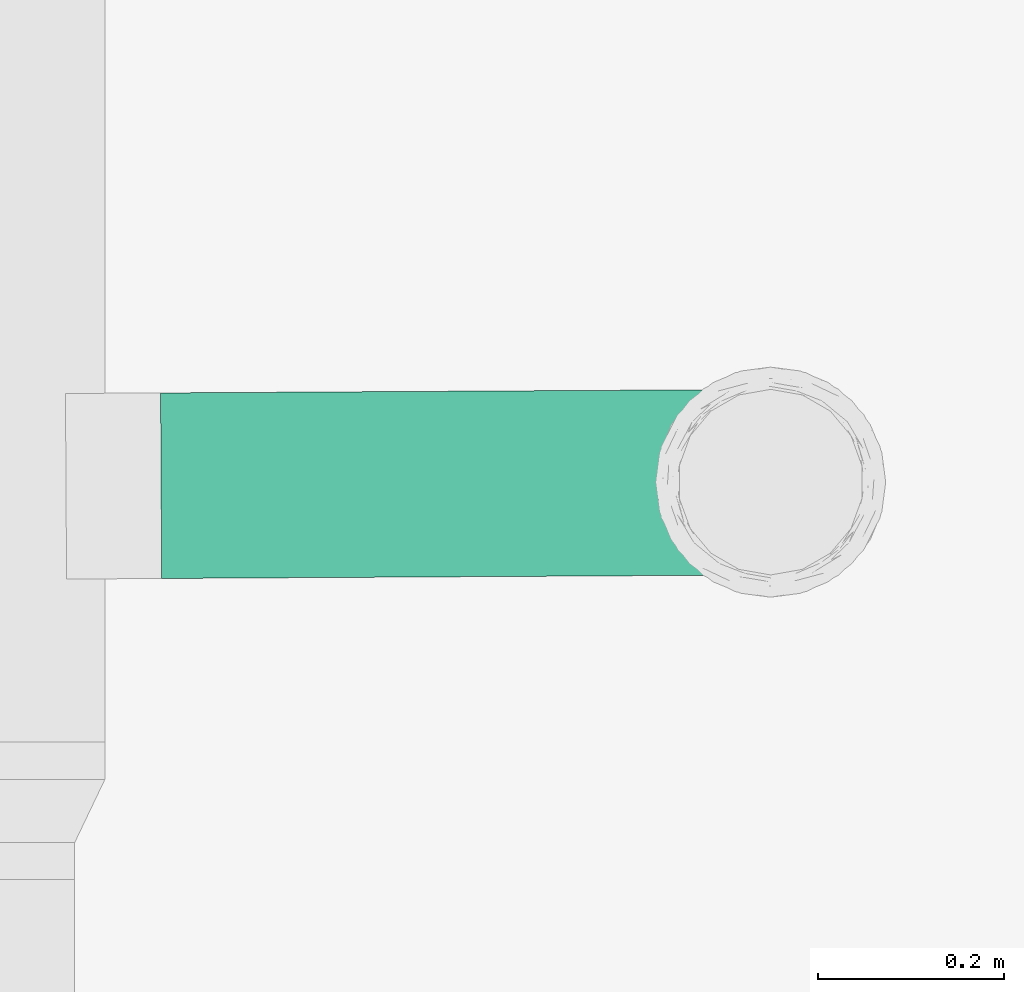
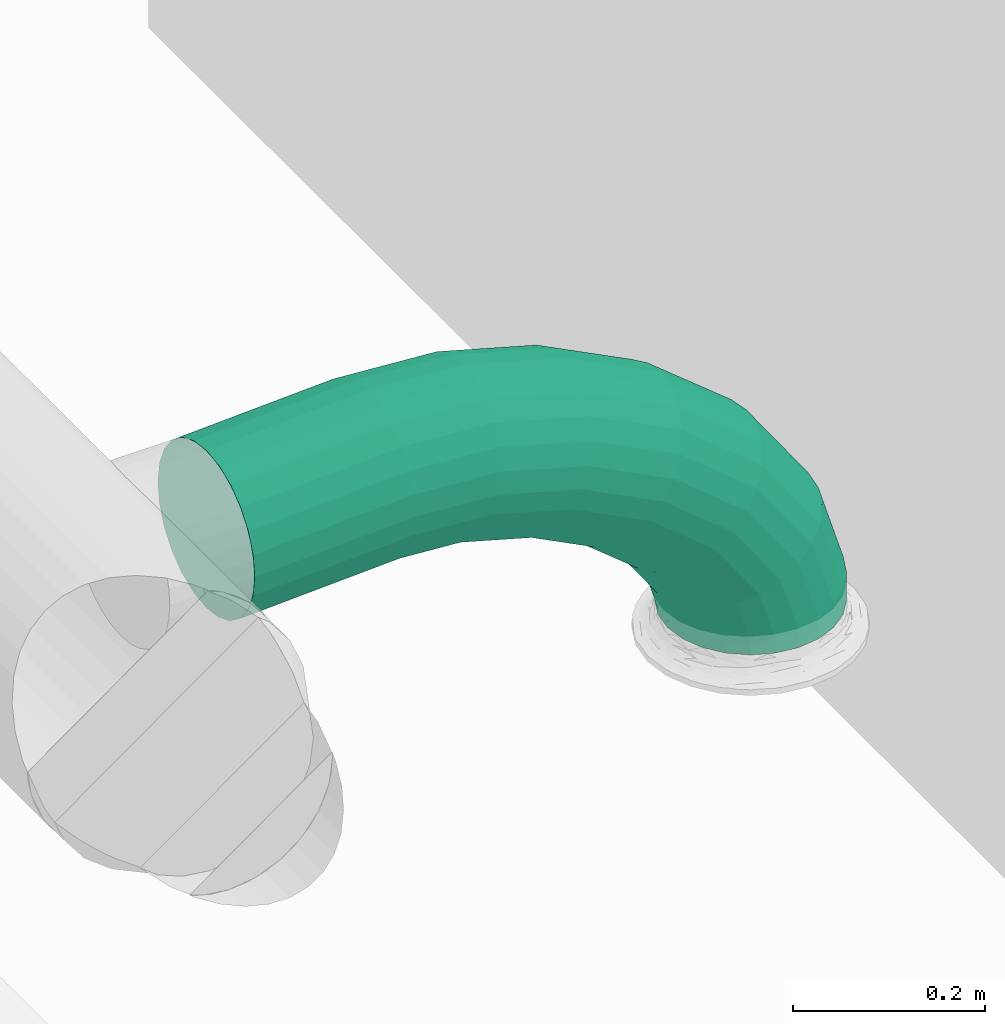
# One storey, part 20 of 31: 1 flow segment.
"""IFC2X3 building model written with IfcOpenShell, lengths in millimetres."""

from ifc_helpers import new_model, entity, si_unit, converted_unit, derived_unit, direction, frame, origin, place, context, subcontext, project, spatial, faceted_brep, type_object, element, save


model = new_model("IFC2X3")

# Units and contexts
model_context = context("Model", 3, precision=0.01, world=origin(), true_north=direction((6.123031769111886e-17, 1.0)))
body_context = subcontext(model_context, "Body", "Model", "MODEL_VIEW")
ifc_project = project(units=[si_unit("LENGTHUNIT", "METRE", prefix="MILLI"), si_unit("AREAUNIT", "SQUARE_METRE"), si_unit("VOLUMEUNIT", "CUBIC_METRE"), converted_unit("PLANEANGLEUNIT", "DEGREE", entity("IfcRatioMeasure", 0.017453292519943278), si_unit("PLANEANGLEUNIT", "RADIAN"), dimensions=[0, 0, 0, 0, 0, 0, 0]), si_unit("MASSUNIT", "GRAM", prefix="KILO"), derived_unit("MASSDENSITYUNIT", [(si_unit("MASSUNIT", "GRAM", prefix="KILO"), 1), (si_unit("LENGTHUNIT", "METRE"), -3)]), derived_unit("MOMENTOFINERTIAUNIT", [(si_unit("LENGTHUNIT", "METRE"), 4)]), si_unit("TIMEUNIT", "SECOND"), si_unit("FREQUENCYUNIT", "HERTZ"), si_unit("THERMODYNAMICTEMPERATUREUNIT", "DEGREE_CELSIUS"), derived_unit("THERMALTRANSMITTANCEUNIT", [(si_unit("MASSUNIT", "GRAM", prefix="KILO"), 1), (si_unit("THERMODYNAMICTEMPERATUREUNIT", "KELVIN"), -1), (si_unit("TIMEUNIT", "SECOND"), -3)]), derived_unit("VOLUMETRICFLOWRATEUNIT", [(si_unit("LENGTHUNIT", "METRE"), 3), (si_unit("TIMEUNIT", "SECOND"), -1)]), derived_unit("MASSFLOWRATEUNIT", [(si_unit("MASSUNIT", "GRAM", prefix="KILO"), 1), (si_unit("TIMEUNIT", "SECOND"), -1)]), derived_unit("ROTATIONALFREQUENCYUNIT", [(si_unit("TIMEUNIT", "SECOND"), -1)]), si_unit("ELECTRICCURRENTUNIT", "AMPERE"), si_unit("ELECTRICVOLTAGEUNIT", "VOLT"), si_unit("POWERUNIT", "WATT"), si_unit("FORCEUNIT", "NEWTON", prefix="KILO"), si_unit("ILLUMINANCEUNIT", "LUX"), si_unit("LUMINOUSFLUXUNIT", "LUMEN"), si_unit("LUMINOUSINTENSITYUNIT", "CANDELA"), derived_unit("USERDEFINED", [(si_unit("MASSUNIT", "GRAM", prefix="KILO"), -1), (si_unit("LENGTHUNIT", "METRE"), -2), (si_unit("TIMEUNIT", "SECOND"), 3), (si_unit("LUMINOUSFLUXUNIT", "LUMEN"), 1)]), derived_unit("SOUNDPOWERUNIT", [(si_unit("MASSUNIT", "GRAM", prefix="KILO"), 1), (si_unit("LENGTHUNIT", "METRE"), 2), (si_unit("TIMEUNIT", "SECOND"), -3)]), derived_unit("SOUNDPRESSUREUNIT", [(si_unit("MASSUNIT", "GRAM", prefix="KILO"), 1), (si_unit("LENGTHUNIT", "METRE"), -1), (si_unit("TIMEUNIT", "SECOND"), -2)]), derived_unit("LINEARVELOCITYUNIT", [(si_unit("LENGTHUNIT", "METRE"), 1), (si_unit("TIMEUNIT", "SECOND"), -1)]), si_unit("PRESSUREUNIT", "PASCAL"), derived_unit("USERDEFINED", [(si_unit("LENGTHUNIT", "METRE"), -2), (si_unit("MASSUNIT", "GRAM", prefix="KILO"), 1), (si_unit("TIMEUNIT", "SECOND"), -2)]), derived_unit("LINEARFORCEUNIT", [(si_unit("MASSUNIT", "GRAM", prefix="KILO"), 1), (si_unit("LENGTHUNIT", "METRE"), 1), (si_unit("TIMEUNIT", "SECOND"), -2), (si_unit("LENGTHUNIT", "METRE"), -1)]), derived_unit("PLANARFORCEUNIT", [(si_unit("MASSUNIT", "GRAM", prefix="KILO"), 1), (si_unit("LENGTHUNIT", "METRE"), 1), (si_unit("TIMEUNIT", "SECOND"), -2), (si_unit("LENGTHUNIT", "METRE"), -2)])], contexts=[model_context])

# Site, building, storey
site_placement = place(None, origin())
site = spatial("IfcSite", under=ifc_project, at=site_placement, Name="Default", CompositionType="ELEMENT")
building_placement = place(site_placement, origin())
building = spatial("IfcBuilding", under=site, at=building_placement, CompositionType="ELEMENT")
storey_placement = place(building_placement, frame((0.0, 0.0, 3880.0)))
storey = spatial("IfcBuildingStorey", under=building, at=storey_placement, Name="Niveau 1", CompositionType="ELEMENT", Elevation=3880.0)

# Flow segment
duct_segment_type = type_object("IfcDuctSegmentType", Name="Gaine flexible circulaire:Souple - Circulaire piquage Aldes", PredefinedType="FLEXIBLESEGMENT")
flow_segment_placement = place(storey_placement, frame((-1979.0962780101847, -19675.414171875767, 2827.5000000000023)))
element("IfcFlowSegment", 1, at=flow_segment_placement, inside=storey, type_object=duct_segment_type, Name="Gaine flexible circulaire:Souple - Circulaire piquage Aldes", ObjectType="Gaine flexible circulaire:Souple - Circulaire piquage Aldes", context=body_context, shape_type="Brep", body=[
    faceted_brep([(588.3855998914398, 34.70349375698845, 0.0), (572.4937376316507, 55.414171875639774, 0.0), (562.5036953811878, 79.53226736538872, 0.0), (559.0962780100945, 105.4141718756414, 0.0), (562.5036953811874, 131.29607638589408, 0.0), (572.4937376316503, 155.41417187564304, 0.0), (588.3855998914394, 176.1248499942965, 0.0), (609.0962780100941, 192.01671225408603, 0.0), (633.214373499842, 202.00675450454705, 0.0), (659.0962780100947, 205.41417187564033, 0.0), (684.9781825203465, 202.0067545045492, 0.0), (709.0962780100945, 192.01671225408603, 0.0), (729.8069561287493, 176.1248499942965, 0.0), (745.6988183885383, 155.41417187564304, 0.0), (755.6888606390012, 131.29607638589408, 0.0), (759.0962780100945, 105.4141718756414, 0.0), (755.6888606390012, 79.53226736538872, 0.0), (745.6988183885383, 55.414171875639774, 0.0), (729.8069561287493, 34.70349375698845, 0.0), (709.0962780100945, 18.811631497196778, 0.0), (684.9781825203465, 8.821589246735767, 0.0), (659.0962780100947, 5.414171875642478, 0.0), (633.2143734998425, 8.821589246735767, 0.0), (609.0962780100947, 18.811631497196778, 0.0), (759.0962780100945, 105.41417187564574, 37.58353401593), (755.6888606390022, 79.53226736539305, 37.0507613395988), (745.6988183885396, 55.41417187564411, 35.53385041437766), (729.8069561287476, 34.70349375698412, 33.13617621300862), (709.0962780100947, 18.811631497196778, 30.021136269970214), (684.9781825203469, 8.821589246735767, 26.401015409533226), (659.0962780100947, 5.414171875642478, 22.52251888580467), (633.214373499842, 8.821589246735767, 18.64995982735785), (609.0962780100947, 18.811631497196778, 15.047246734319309), (588.3855998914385, 34.70349375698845, 11.959898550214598), (562.5036953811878, 79.53226736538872, 8.123428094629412), (559.0962780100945, 105.4141718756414, 7.635754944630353), (572.4937376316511, 55.414171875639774, 9.598312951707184), (572.493737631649, 155.4141718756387, 9.68543854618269), (588.385599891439, 176.12484999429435, 12.083112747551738), (562.5036953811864, 131.29607638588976, 8.16852762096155), (633.2143734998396, 202.00675450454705, 18.81827355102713), (659.0962780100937, 205.41417187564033, 22.696770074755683), (609.0962780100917, 192.01671225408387, 15.198152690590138), (684.9781825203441, 202.0067545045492, 26.5693291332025), (709.0962780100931, 192.01671225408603, 30.172042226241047), (729.806956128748, 176.1248499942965, 33.25939041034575), (745.6988183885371, 155.41417187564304, 35.62097600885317), (755.6888606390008, 131.29607638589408, 37.09586086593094), (1.671530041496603, 188.48241061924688, 273.0047348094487), (1.7632925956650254, 172.71158738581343, 252.20194200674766), (1.8832556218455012, 152.0940740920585, 236.1898456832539), (2.023243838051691, 128.03492019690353, 226.05964374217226), (2.173717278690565, 102.17371727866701, 222.5016927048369), (2.324421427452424, 76.27286357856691, 225.75846105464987), (2.4650860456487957, 52.09745947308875, 235.6080054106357), (2.5861250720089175, 31.295018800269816, 251.37909560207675), (2.6792898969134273, 15.283193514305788, 271.9969578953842), (2.7382314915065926, 5.153163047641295, 296.0565190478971), (2.758933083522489, 1.5952722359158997, 321.9181597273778), (2.7399838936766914, 4.8519854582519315, 347.8194518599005), (2.6826752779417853, 14.701363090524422, 371.9952651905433), (2.590912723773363, 30.472186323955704, 392.7980579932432), (2.470949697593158, 51.0896996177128, 408.8101543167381), (2.330961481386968, 75.14885351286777, 418.9403562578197), (2.180488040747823, 101.01005643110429, 422.4983072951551), (2.029783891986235, 126.91091013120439, 419.2415389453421), (1.8891192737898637, 151.08631423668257, 409.3919945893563), (1.7680802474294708, 171.88875490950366, 393.62090439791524), (1.6749154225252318, 187.90058019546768, 373.00304210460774), (1.6159738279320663, 198.03061066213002, 348.94348095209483), (1.5952722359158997, 201.58850147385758, 323.08184027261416), (1.6142214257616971, 198.33178825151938, 297.1805481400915), (728.4074139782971, 105.23560868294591, 137.7603886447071), (725.3214779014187, 79.35557471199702, 136.17821300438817), (716.2467575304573, 55.24280502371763, 131.67344085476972), (701.8016800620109, 34.540545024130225, 124.55306497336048), (682.9706536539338, 18.659619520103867, 115.3023272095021), (661.0369816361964, 8.682287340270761, 104.55165005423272), (637.4954075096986, 5.2884871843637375, 93.03367438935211), (613.9502506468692, 8.709500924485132, 81.533331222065), (592.0060745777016, 18.712192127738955, 70.83434993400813), (573.158338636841, 34.61489391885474, 61.66584841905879), (558.691484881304, 55.3338634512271, 54.652644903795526), (549.5914054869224, 79.45713719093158, 50.27267761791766), (546.4782558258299, 105.34075389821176, 48.82443409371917), (549.5641919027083, 131.22078786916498, 50.40660973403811), (558.6389122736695, 155.33355755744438, 54.91138188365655), (573.0839897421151, 176.03581755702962, 62.03175776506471), (613.8486881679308, 201.89407524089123, 82.03317268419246), (637.3902622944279, 205.28787539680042, 93.55114834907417), (591.9150161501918, 191.91674306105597, 71.28249552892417), (660.9354191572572, 201.86686165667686, 105.05149151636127), (682.879595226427, 191.86417045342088, 115.75047280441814), (701.7273311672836, 175.96146866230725, 124.9189743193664), (716.1941849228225, 155.24249912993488, 131.93217783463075), (725.2942643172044, 131.1192253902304, 136.3121451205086), (653.4741443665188, 104.79960936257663, 244.49347099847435), (650.9947742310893, 78.92310469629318, 242.0473179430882), (643.6470690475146, 54.82038364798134, 235.0826283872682), (631.9317627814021, 34.13400682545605, 224.07403441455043), (616.6472341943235, 18.27371662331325, 209.77175351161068), (598.8350986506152, 8.320365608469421, 193.1504624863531), (579.7092237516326, 4.952258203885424, 175.3428748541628), (560.5730062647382, 8.398925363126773, 157.5625482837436), (542.7305477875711, 18.42548241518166, 141.02118264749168), (527.3977823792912, 34.34863606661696, 126.84604467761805), (515.6196126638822, 55.083249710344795, 116.00314660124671), (508.19870144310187, 79.21629369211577, 109.23141400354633), (505.6407715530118, 105.10314094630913, 106.99232927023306), (508.1201416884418, 130.97964561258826, 109.43848232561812), (515.4678468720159, 155.08236666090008, 116.40317188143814), (527.1831531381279, 175.7687434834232, 127.41176585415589), (560.2798172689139, 201.582384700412, 158.33533778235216), (579.4056921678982, 204.95049210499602, 176.14292541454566), (542.4676817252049, 191.62903368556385, 141.71404675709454), (598.5419096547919, 201.50382494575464, 193.9232519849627), (616.3843681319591, 191.47726789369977, 210.46461762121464), (631.717133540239, 175.55411424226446, 224.63975559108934), (643.4953032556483, 154.81950059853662, 235.4826536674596), (650.9162144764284, 130.68645661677, 242.25438626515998), (551.0500471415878, 104.20365462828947, 328.0826627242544), (549.2438248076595, 78.3310666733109, 325.087147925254), (543.8127067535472, 54.23949728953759, 316.5583150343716), (535.1268146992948, 33.57074711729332, 303.0773899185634), (523.7780778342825, 17.733357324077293, 285.5630753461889), (510.5398938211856, 7.806619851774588, 265.20894291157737), (496.31442302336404, 4.46702545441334, 243.40209310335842), (482.071107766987, 7.942161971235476, 221.628626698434), (468.7806064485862, 17.995204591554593, 201.37236944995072), (457.3486447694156, 33.941055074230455, 184.01375181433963), (448.55429202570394, 54.69303006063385, 170.73573489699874), (442.9968688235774, 78.83691674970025, 162.4431936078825), (441.0551043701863, 104.72734916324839, 159.70125093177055), (442.8613267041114, 130.5999371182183, 162.6967657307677), (448.29244475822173, 154.69150650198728, 171.22559862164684), (456.97833681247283, 175.36025667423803, 184.70652373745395), (481.5652576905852, 201.12438393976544, 222.57497074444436), (495.79072848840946, 204.4639783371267, 244.38182055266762), (468.3270736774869, 191.19764646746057, 202.22083830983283), (510.03404374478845, 200.98884182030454, 266.15528695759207), (523.3245450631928, 190.93579919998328, 286.4115442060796), (534.7565067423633, 174.98994871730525, 303.77016184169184), (543.5508594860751, 154.23797373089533, 317.04817875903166), (549.1082826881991, 130.09408704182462, 325.34072004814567), (434.30020884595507, 103.52434555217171, 387.7993140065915), (433.14289231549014, 77.65553325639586, 384.4718888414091), (429.55933954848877, 53.57471393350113, 374.9980404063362), (423.7937637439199, 32.92295562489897, 360.0233958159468), (416.2390793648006, 17.107641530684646, 340.5684523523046), (407.41012566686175, 7.2065591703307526, 317.95903226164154), (397.9085812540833, 3.8944509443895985, 293.7359301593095), (388.381960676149, 7.397031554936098, 269.54991042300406), (379.47948738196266, 17.47560592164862, 247.049210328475), (371.8078502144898, 33.44333585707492, 227.76721540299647), (365.8898585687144, 54.21204695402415, 213.01796173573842), (362.1288137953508, 78.36638587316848, 203.80658658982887), (360.78102488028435, 104.26027433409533, 200.76082995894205), (361.9383414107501, 130.12908662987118, 204.0882551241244), (365.5218941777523, 154.20990595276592, 213.56210355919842), (371.2874699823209, 174.86166426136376, 228.53674814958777), (387.67110805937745, 200.57806071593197, 270.60111170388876), (397.1726524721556, 203.8901689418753, 294.82421380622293), (378.84215436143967, 190.67697835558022, 247.99169161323), (406.69927305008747, 200.38758833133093, 319.01023354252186), (415.60174634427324, 190.30901396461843, 341.5109336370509), (423.27338351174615, 174.34128402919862, 360.79292856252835), (429.1913751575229, 153.57257293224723, 375.54218222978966), (432.9524199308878, 129.41823401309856, 384.75355737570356), (312.213223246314, 102.81398227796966, 422.4037651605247), (311.7383352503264, 76.94914069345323, 418.882911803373), (310.09779372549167, 52.87962678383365, 408.85833441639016), (307.40339886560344, 32.24573814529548, 393.0131913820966), (303.8387692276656, 16.453640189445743, 372.4273030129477), (299.6468284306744, 6.579538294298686, 348.5035635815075), (295.1132503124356, 3.296336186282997, 322.8723363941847), (290.54699072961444, 6.827778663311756, 297.2803472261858), (286.25923272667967, 16.93320375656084, 273.47164784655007), (282.54217992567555, 32.923943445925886, 253.06876177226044), (279.64914333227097, 53.710255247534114, 237.46211197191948), (277.7772786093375, 77.8755863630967, 227.715265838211), (277.0541502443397, 103.77310941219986, 224.49245482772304), (277.5290382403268, 129.63795099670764, 228.01330818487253), (279.16957976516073, 153.7074649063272, 238.03788557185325), (281.86397462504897, 174.34135354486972, 253.88302860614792), (289.620545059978, 200.00755339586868, 298.39265640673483), (294.15412317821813, 203.29075550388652, 324.02388359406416), (285.42860426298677, 190.13345150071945, 274.46891697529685), (298.72038276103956, 199.75931302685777, 349.6158727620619), (303.0081407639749, 189.65388793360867, 373.4245721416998), (306.7251935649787, 173.66314824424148, 393.8274582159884), (309.6182301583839, 152.8768364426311, 409.4341080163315), (311.4900948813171, 128.71150532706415, 419.18095415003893), (196.8774384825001, 102.1429008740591, 431.1144383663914), (196.97341680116, 76.28138087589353, 427.55047063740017), (196.9582464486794, 52.22132419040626, 417.40313796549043), (196.83296125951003, 31.602383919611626, 401.3639643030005), (196.6060992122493, 15.829706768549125, 380.5259928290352), (196.29312058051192, 5.978174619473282, 356.30929686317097), (195.91535434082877, 2.7191531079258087, 330.36420421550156), (195.49854463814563, 6.274739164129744, 304.4588300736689), (195.07109636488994, 16.402625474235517, 280.35858287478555), (194.66213941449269, 32.41261332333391, 259.7058546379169), (194.29954352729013, 53.21364849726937, 243.90809466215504), (194.0080190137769, 77.3881748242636, 234.04189418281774), (193.80743278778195, 103.28873828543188, 230.77961845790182), (193.71145446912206, 129.15025828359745, 234.3435861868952), (193.72662482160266, 153.21031496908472, 244.49091885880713), (193.85191001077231, 173.82925523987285, 260.5300925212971), (194.39175068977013, 199.45346454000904, 305.58475996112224), (194.7695169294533, 202.71248605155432, 331.52985260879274), (194.07877205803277, 189.60193239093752, 281.3680639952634), (195.18632663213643, 199.15689999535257, 357.4352267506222), (195.61377490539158, 189.02901368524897, 381.53547394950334), (196.02273185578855, 173.01902583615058, 402.1882021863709), (196.38532774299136, 152.21799066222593, 417.9859621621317), (196.67685225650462, 128.04346433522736, 427.85216264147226), (94.30906605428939, 101.54610669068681, 426.5161388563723), (94.61888251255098, 75.68583158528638, 422.96175801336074), (95.2125523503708, 51.62931780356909, 412.8417210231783), (96.04961796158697, 31.015976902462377, 396.8456914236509), (97.0730347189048, 15.250574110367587, 376.0637719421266), (98.21305846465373, 5.407495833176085, 351.9122159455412), (99.39199845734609, 2.157531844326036, 326.0369121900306), (100.52951187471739, 5.722161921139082, 300.20122007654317), (101.54807904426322, 15.858462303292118, 276.16579963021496), (102.37828629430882, 31.875660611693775, 255.5686251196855), (102.96355637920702, 52.682210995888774, 239.81335983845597), (103.26400412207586, 76.8601813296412, 229.97369881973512), (103.25915451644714, 102.76188301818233, 226.72019844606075), (102.9493380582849, 128.62215810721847, 230.27457928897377), (102.35566822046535, 152.6786718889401, 240.39461627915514), (101.51860260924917, 173.29201279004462, 256.3906458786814), (100.49518585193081, 189.0574155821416, 277.17256536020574), (99.35516210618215, 198.90049385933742, 301.32412135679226), (98.17622211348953, 202.15045784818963, 327.19942511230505), (97.03870869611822, 198.58582777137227, 353.03511722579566), (96.02014152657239, 188.44952738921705, 377.0705376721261), (95.18993427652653, 172.43232908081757, 397.66771218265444), (94.6046641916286, 151.62577869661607, 413.42297746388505), (94.30421644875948, 127.44780836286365, 423.2626384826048), (4.4405689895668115, 75.16112826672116, 418.9403562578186), (4.806310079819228, 51.10328791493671, 408.8101543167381), (4.210806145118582, 101.02186983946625, 422.498307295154), (5.283104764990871, 30.487850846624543, 392.79805799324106), (6.434530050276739, 4.873482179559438, 347.8194518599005), (7.030692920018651, 1.6201274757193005, 321.91815972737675), (5.838460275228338, 14.719725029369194, 371.9952651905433), (7.586321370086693, 5.181371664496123, 296.0565190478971), (8.063550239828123, 15.314521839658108, 271.9969578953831), (8.429857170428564, 31.329020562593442, 251.37909560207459), (8.66027894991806, 52.13350621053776, 235.6080054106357), (8.739112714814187, 76.31018746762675, 225.7584610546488), (8.660986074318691, 102.21146346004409, 222.50169270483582), (8.431223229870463, 128.07220503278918, 226.05964374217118), (8.065482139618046, 152.13004538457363, 236.18984568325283), (7.588687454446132, 172.74548245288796, 252.20194200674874), (7.0333319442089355, 188.51360827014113, 273.0047348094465), (6.437262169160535, 198.3598511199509, 297.18054814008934), (5.841099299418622, 201.61320582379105, 323.0818402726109), (5.285470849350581, 198.0519616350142, 348.94348095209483), (4.808241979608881, 187.91881145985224, 373.0030421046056), (4.441935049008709, 171.90431273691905, 393.62090439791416), (4.211513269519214, 151.09982708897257, 409.3919945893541), (4.132679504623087, 126.92314583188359, 419.241538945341)], [[[0, 1, 2, 3, 4, 5, 6, 7, 8, 9, 10, 11, 12, 13, 14, 15, 16, 17, 18, 19, 20, 21, 22, 23]], [[15, 24, 25, 16]], [[16, 25, 26, 17]], [[17, 26, 27, 18]], [[19, 28, 29, 20]], [[20, 29, 30, 21]], [[18, 27, 28, 19]], [[31, 32, 23, 22]], [[30, 31, 22, 21]], [[23, 32, 33, 0]], [[34, 35, 3, 2]], [[36, 34, 2, 1]], [[0, 33, 36, 1]], [[5, 37, 38, 6]], [[39, 37, 5, 4]], [[3, 35, 39, 4]], [[40, 41, 9, 8]], [[42, 40, 8, 7]], [[38, 42, 7, 6]], [[11, 10, 43, 44]], [[12, 11, 44, 45]], [[9, 41, 43, 10]], [[14, 13, 46, 47]], [[15, 14, 47, 24]], [[45, 46, 13, 12]], [[48, 49, 50, 51, 52, 53, 54, 55, 56, 57, 58, 59, 60, 61, 62, 63, 64, 65, 66, 67, 68, 69, 70, 71]], [[24, 72, 73, 25]], [[25, 73, 74, 26]], [[26, 74, 75, 27]], [[27, 75, 76, 28]], [[28, 76, 77, 29]], [[78, 30, 29, 77]], [[79, 80, 32, 31]], [[78, 79, 31, 30]], [[81, 33, 32, 80]], [[82, 83, 34, 36]], [[82, 36, 33, 81]], [[84, 35, 34, 83]], [[85, 86, 37, 39]], [[84, 85, 39, 35]], [[38, 37, 86, 87]], [[88, 89, 41, 40]], [[90, 88, 40, 42]], [[87, 90, 42, 38]], [[43, 41, 89, 91]], [[44, 43, 91, 92]], [[45, 44, 92, 93]], [[47, 46, 94, 95]], [[24, 47, 95, 72]], [[93, 94, 46, 45]], [[73, 72, 96, 97]], [[74, 73, 97, 98]], [[98, 99, 75, 74]], [[76, 75, 99, 100]], [[77, 76, 100, 101]], [[78, 77, 101, 102]], [[103, 104, 80, 79]], [[102, 103, 79, 78]], [[81, 80, 104, 105]], [[106, 107, 83, 82]], [[105, 106, 82, 81]], [[84, 83, 107, 108]], [[109, 110, 86, 85]], [[108, 109, 85, 84]], [[111, 87, 86, 110]], [[112, 113, 89, 88]], [[114, 112, 88, 90]], [[114, 90, 87, 111]], [[89, 113, 115, 91]], [[91, 115, 116, 92]], [[117, 93, 92, 116]], [[94, 118, 119, 95]], [[95, 119, 96, 72]], [[118, 94, 93, 117]], [[97, 96, 120, 121]], [[98, 97, 121, 122]], [[122, 123, 99, 98]], [[100, 99, 123, 124]], [[101, 100, 124, 125]], [[102, 101, 125, 126]], [[127, 128, 104, 103]], [[126, 127, 103, 102]], [[105, 104, 128, 129]], [[130, 131, 107, 106]], [[129, 130, 106, 105]], [[108, 107, 131, 132]], [[133, 134, 110, 109]], [[132, 133, 109, 108]], [[135, 111, 110, 134]], [[136, 137, 113, 112]], [[138, 136, 112, 114]], [[138, 114, 111, 135]], [[113, 137, 139, 115]], [[115, 139, 140, 116]], [[141, 117, 116, 140]], [[118, 142, 143, 119]], [[119, 143, 120, 96]], [[142, 118, 117, 141]], [[121, 120, 144, 145]], [[122, 121, 145, 146]], [[146, 147, 123, 122]], [[124, 123, 147, 148]], [[125, 124, 148, 149]], [[126, 125, 149, 150]], [[151, 152, 128, 127]], [[150, 151, 127, 126]], [[129, 128, 152, 153]], [[154, 155, 131, 130]], [[153, 154, 130, 129]], [[132, 131, 155, 156]], [[157, 158, 134, 133]], [[156, 157, 133, 132]], [[159, 135, 134, 158]], [[160, 161, 137, 136]], [[162, 160, 136, 138]], [[162, 138, 135, 159]], [[137, 161, 163, 139]], [[139, 163, 164, 140]], [[165, 141, 140, 164]], [[142, 166, 167, 143]], [[143, 167, 144, 120]], [[166, 142, 141, 165]], [[144, 168, 169, 145]], [[145, 169, 170, 146]], [[146, 170, 171, 147]], [[147, 171, 172, 148]], [[148, 172, 173, 149]], [[174, 150, 149, 173]], [[175, 176, 152, 151]], [[174, 175, 151, 150]], [[177, 153, 152, 176]], [[178, 179, 155, 154]], [[178, 154, 153, 177]], [[180, 156, 155, 179]], [[181, 182, 158, 157]], [[180, 181, 157, 156]], [[159, 158, 182, 183]], [[184, 185, 161, 160]], [[186, 184, 160, 162]], [[183, 186, 162, 159]], [[163, 161, 185, 187]], [[164, 163, 187, 188]], [[165, 164, 188, 189]], [[167, 166, 190, 191]], [[144, 167, 191, 168]], [[189, 190, 166, 165]], [[169, 168, 192, 193]], [[170, 169, 193, 194]], [[194, 195, 171, 170]], [[172, 171, 195, 196]], [[173, 172, 196, 197]], [[174, 173, 197, 198]], [[199, 200, 176, 175]], [[198, 199, 175, 174]], [[177, 176, 200, 201]], [[202, 203, 179, 178]], [[201, 202, 178, 177]], [[180, 179, 203, 204]], [[205, 206, 182, 181]], [[204, 205, 181, 180]], [[207, 183, 182, 206]], [[208, 209, 185, 184]], [[210, 208, 184, 186]], [[210, 186, 183, 207]], [[185, 209, 211, 187]], [[187, 211, 212, 188]], [[213, 189, 188, 212]], [[190, 214, 215, 191]], [[191, 215, 192, 168]], [[214, 190, 189, 213]], [[216, 217, 193]], [[192, 216, 193]], [[195, 194, 218]], [[194, 193, 217]], [[218, 194, 217]], [[218, 219, 195]], [[197, 220, 221]], [[198, 221, 222]], [[219, 196, 195]], [[196, 220, 197]], [[221, 198, 197]], [[196, 219, 220]], [[199, 222, 223]], [[200, 223, 224]], [[199, 198, 222]], [[201, 200, 224]], [[199, 223, 200]], [[224, 225, 201]], [[203, 226, 227]], [[204, 227, 228]], [[225, 202, 201]], [[225, 226, 202]], [[202, 226, 203]], [[227, 204, 203]], [[205, 229, 230]], [[206, 230, 231]], [[228, 229, 204]], [[204, 229, 205]], [[230, 206, 205]], [[231, 207, 206]], [[210, 232, 233]], [[208, 233, 234]], [[210, 207, 232]], [[209, 208, 234]], [[210, 233, 208]], [[232, 207, 231]], [[209, 234, 235]], [[211, 235, 236]], [[209, 235, 211]], [[212, 211, 236]], [[237, 213, 212]], [[212, 236, 237]], [[214, 238, 239]], [[215, 239, 216]], [[238, 213, 237]], [[238, 214, 213]], [[214, 239, 215]], [[216, 192, 215]], [[240, 241, 218]], [[242, 240, 217]], [[217, 216, 242]], [[219, 218, 241]], [[217, 240, 218]], [[241, 243, 219]], [[244, 245, 222]], [[246, 244, 221]], [[243, 220, 219]], [[243, 246, 220]], [[220, 246, 221]], [[244, 222, 221]], [[223, 245, 247]], [[224, 247, 248]], [[222, 245, 223]], [[224, 223, 247]], [[225, 224, 248]], [[248, 249, 225]], [[227, 250, 251]], [[228, 251, 252]], [[249, 226, 225]], [[249, 250, 226]], [[226, 250, 227]], [[251, 228, 227]], [[228, 252, 253]], [[229, 253, 254]], [[228, 253, 229]], [[229, 254, 230]], [[230, 255, 231]], [[230, 254, 255]], [[231, 256, 232]], [[232, 256, 257]], [[232, 257, 233]], [[258, 234, 233]], [[257, 258, 233]], [[256, 231, 255]], [[259, 260, 235]], [[258, 259, 234]], [[235, 234, 259]], [[261, 237, 236]], [[235, 260, 236]], [[236, 260, 261]], [[262, 263, 238]], [[262, 238, 237]], [[238, 263, 239]], [[242, 216, 239]], [[263, 242, 239]], [[262, 237, 261]], [[242, 64, 63, 240]], [[240, 63, 62, 241]], [[241, 62, 61, 243]], [[59, 58, 245, 244]], [[60, 59, 244, 246]], [[246, 243, 61, 60]], [[245, 58, 57, 247]], [[247, 57, 56, 248]], [[248, 56, 55, 249]], [[250, 54, 53, 251]], [[251, 53, 52, 252]], [[249, 55, 54, 250]], [[253, 252, 52, 51]], [[254, 253, 51, 50]], [[255, 254, 50, 49]], [[257, 256, 48, 71]], [[258, 257, 71, 70]], [[49, 48, 256, 255]], [[259, 258, 70, 69]], [[260, 259, 69, 68]], [[261, 260, 68, 67]], [[263, 262, 66, 65]], [[242, 263, 65, 64]], [[261, 67, 66, 262]]]),
])

save(model, "model.ifc")
